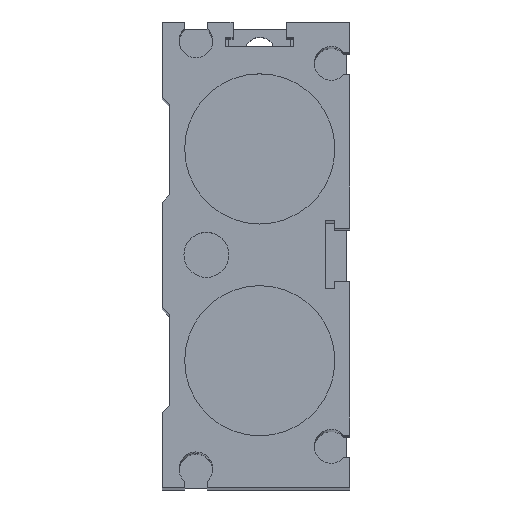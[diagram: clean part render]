
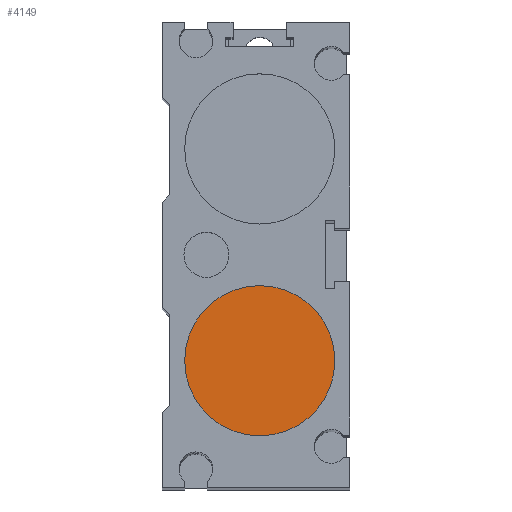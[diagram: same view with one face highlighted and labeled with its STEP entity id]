
A CAD part, top view. The second image highlights one B-rep face of the part: STEP entity #4149.
In plain terms, the highlighted planar face has unit normal (0, 0, 1).
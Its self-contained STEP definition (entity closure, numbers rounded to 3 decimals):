
#4126=CARTESIAN_POINT('',(10.0,-14.1,323.0));
#4127=VERTEX_POINT('',#4126);
#4128=CARTESIAN_POINT('',(0.0,-14.1,323.0));
#4129=DIRECTION('',(0.0,0.0,1.0));
#4130=DIRECTION('',(-1.0,0.0,0.0));
#4131=AXIS2_PLACEMENT_3D('',#4128,#4129,#4130);
#4132=CIRCLE('',#4131,10.0);
#4133=EDGE_CURVE('',#4127,#4127,#4132,.T.);
#4141=CARTESIAN_POINT('',(0.0,-14.1,323.0));
#4142=DIRECTION('',(0.0,0.0,-1.0));
#4143=DIRECTION('',(-1.0,0.0,0.0));
#4144=AXIS2_PLACEMENT_3D('',#4141,#4142,#4143);
#4145=PLANE('',#4144);
#4146=ORIENTED_EDGE('',*,*,#4133,.T.);
#4147=EDGE_LOOP('',(#4146));
#4148=FACE_OUTER_BOUND('',#4147,.T.);
#4149=ADVANCED_FACE('',(#4148),#4145,.F.);
